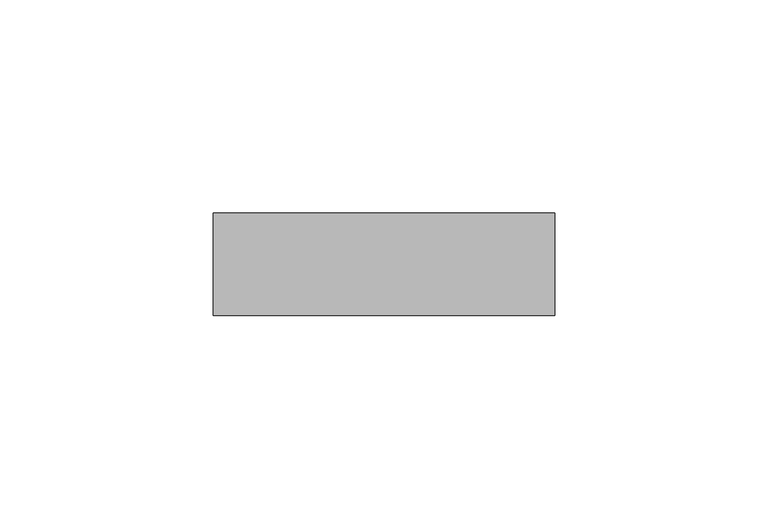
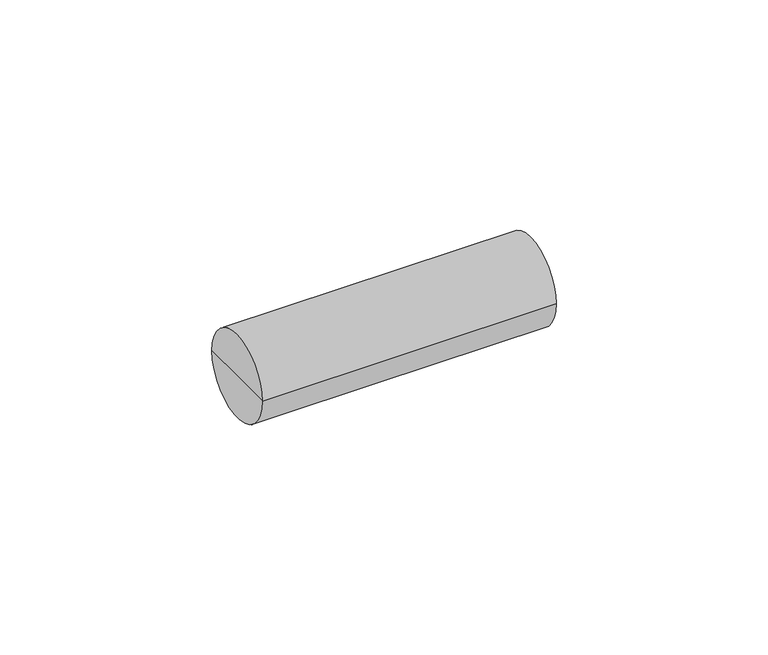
"""IFC4 building model written with IfcOpenShell, lengths in millimetres: cable carrier fitting geometry, Муфта прямая труба-труба армированная IP65 GA : CTA10D-GA20-K41-050."""

from ifc_helpers import new_model, si_unit, frame, origin, place, context, project, spatial, circle_curve, source, transform, mapped, element, save
from ifc_brep_helpers import plane_surface, cylinder_surface, advanced_brep


def cable_carrier_fitting_59e1ce25(model_context):
    return source(origin(), model_context, "Body", "AdvancedBrep", [
        advanced_brep(
        [(-40.0, -12.0, 0.0), (-40.0, 12.0, 0.0), (40.0, 12.0, 0.0), (40.0, -12.0, 0.0), (-40.0, 0.0, 0.0), (40.0, 0.0, 0.0)],
        [
            (0, 1, circle_curve(frame((-40.0, 0.0, 0.0), z_axis=(1.0, 0.0, 0.0), x_axis=(0.0, 1.0, 0.0)), 12.0)),
            (1, 2),
            (2, 3, circle_curve(frame((40.0, 0.0, 0.0), z_axis=(-1.0, 0.0, 0.0), x_axis=(0.0, 1.0, 0.0)), 12.0)),
            (3, 0),
            (1, 0, circle_curve(frame((-40.0, 0.0, 0.0), z_axis=(1.0, 0.0, 0.0), x_axis=(0.0, 1.0, 0.0)), 12.0)),
            (3, 2, circle_curve(frame((40.0, 0.0, 0.0), z_axis=(-1.0, 0.0, 0.0), x_axis=(0.0, 1.0, 0.0)), 12.0)),
            (4, 1),
            (0, 4),
            (2, 5),
            (5, 3),
        ],
        [
            cylinder_surface(frame((1965.0, 0.0, 0.0), z_axis=(-1.0, 0.0, 0.0), x_axis=(0.0, 1.0, 0.0)), 12.0),
            plane_surface(frame((-40.0, 0.0, 0.0), z_axis=(-1.0, 0.0, 0.0), x_axis=(0.0, 1.0, 0.0))),
            plane_surface(frame((40.0, 0.0, 0.0), z_axis=(1.0, 0.0, 0.0), x_axis=(0.0, 1.0, 0.0))),
        ],
        [
            (0, [[1, 2, 3, 4]]),
            (0, [[5, -4, 6, -2]]),
            (1, [[7, -1, 8]]),
            (1, [[-8, -5, -7]]),
            (2, [[-3, 9, 10]]),
            (2, [[-6, -10, -9]]),
        ],
    ),
    ])


if __name__ == "__main__":
    model = new_model("IFC4")
    model_context = context("Model", 3, world=origin())
    ifc_project = project(units=[si_unit("LENGTHUNIT", "METRE", prefix="MILLI")], contexts=[model_context])
    site = spatial("IfcSite", under=ifc_project)
    building = spatial("IfcBuilding", under=site)
    placement = place(None, origin())
    cable_carrier_fitting_shape = cable_carrier_fitting_59e1ce25(model_context)
    element("IfcCableCarrierFitting", 1, ObjectType="Муфта прямая труба-труба армированная IP65 GA : CTA10D-GA20-K41-050", at=placement, inside=building, context=model_context, shape_type="MappedRepresentation", body=[
        mapped(cable_carrier_fitting_shape, transform((0.0, 0.0, 0.0), x_axis=(1.0, 0.0, 0.0), y_axis=(0.0, 1.0, 0.0), z_axis=(0.0, 0.0, 1.0))),
    ])
    save(model, "model.ifc")
